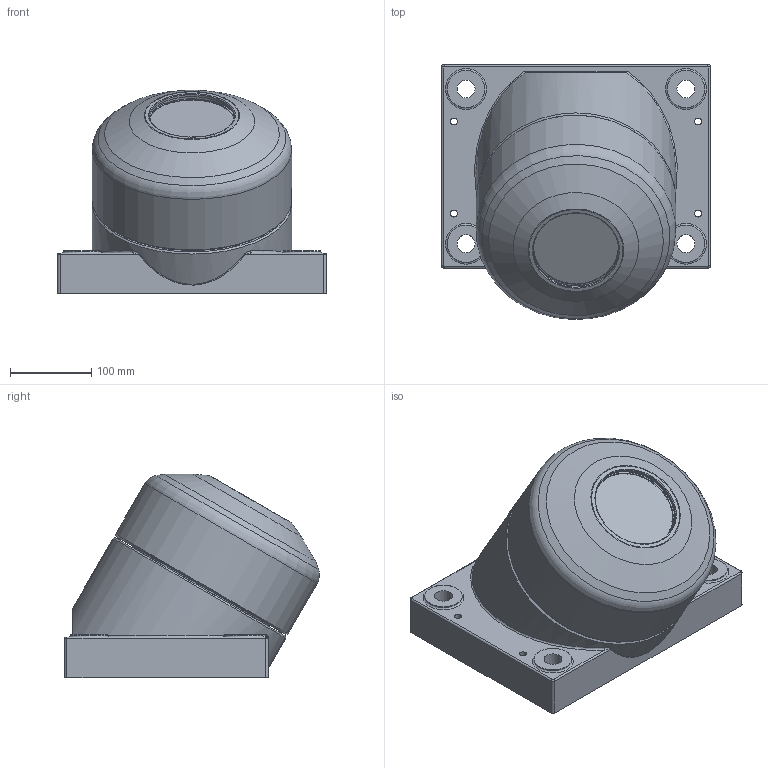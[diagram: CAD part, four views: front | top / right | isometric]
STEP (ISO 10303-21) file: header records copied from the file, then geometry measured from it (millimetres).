
FILE_DESCRIPTION(/* description */ (''),/* implementation_level */ '2;1');
FILE_NAME(/* name */ 'Z:\34-Tei\01-web 3Dデータ\SW車輪\SW-250-I.stp',/* time_stamp */ '2015-03-17T16:51:43+09:00',/* author */ ('yamaki'),/* organization */ (''),/* preprocessor_version */ 'ST-DEVELOPER v15.6',/* originating_system */ 'Autodesk Inventor 2015',/* authorisation */ '');
FILE_SCHEMA (('AUTOMOTIVE_DESIGN { 1 0 10303 214 3 1 1 }'));
Length unit declared in the file: centimetre
Products named in the file (1): SW-250-I
Bounding box: 330 x 313.08 x 249.96 mm (x, y, z)
Volume: 10734342.5 mm3; surface area: 608054.9 mm2
Topology: 1 solids, 3 shells, 150 faces, 312 edges, 198 vertices
Faces by surface type: cylinder 60, plane 51, cone 15, torus 14, bspline 10
Full cylindrical faces by diameter (mm): 8 x1, 8.376 x4, 10.5 x1, 22 x4, 45 x2, 46 x4, 55 x1, 61 x2, 64 x1, 68 x1, 84 x2, 90 x1, 100 x2, 100.1 x1, 102 x1, 104 x1, 105 x2, 109 x1, 118 x1, 120 x1, 170.1 x2, 172 x1, 180 x1, 194 x2, 200 x1, 245 x2
Entity records: 4108 total; most frequent: CARTESIAN_POINT 1000, DIRECTION 646, ORIENTED_EDGE 448, AXIS2_PLACEMENT_3D 296, EDGE_LOOP 270, EDGE_CURVE 224, VERTEX_POINT 180, STYLED_ITEM 151
